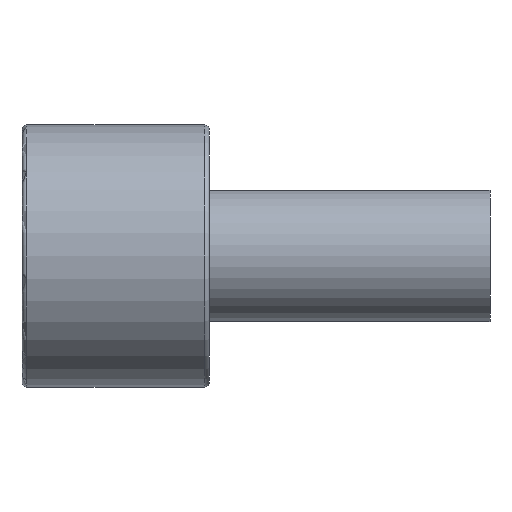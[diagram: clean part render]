
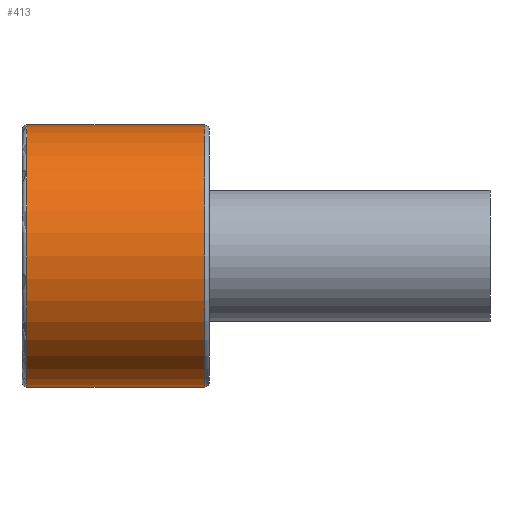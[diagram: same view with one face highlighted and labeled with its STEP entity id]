
A CAD part, front view. The second image highlights one B-rep face of the part: STEP entity #413.
In plain terms, the highlighted cylindrical face has radius 14 mm (diameter 28 mm), a partial arc.
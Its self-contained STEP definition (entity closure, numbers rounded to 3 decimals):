
#225=CARTESIAN_POINT('Vertex',(0.5,0.,14.)) ;
#239=CARTESIAN_POINT('Vertex',(0.5,0.,-14.)) ;
#261=CARTESIAN_POINT('Axis2P3D Location',(0.5,0.,0.)) ;
#265=CARTESIAN_POINT('Vertex',(0.5,-14.,0.)) ;
#268=CARTESIAN_POINT('Axis2P3D Location',(0.5,0.,0.)) ;
#353=CARTESIAN_POINT('Line Origine',(50.,0.,14.)) ;
#357=CARTESIAN_POINT('Vertex',(19.5,0.,14.)) ;
#371=CARTESIAN_POINT('Vertex',(19.5,0.,-14.)) ;
#374=CARTESIAN_POINT('Line Origine',(50.,0.,-14.)) ;
#388=CARTESIAN_POINT('Axis2P3D Location',(50.,0.,0.)) ;
#393=CARTESIAN_POINT('Axis2P3D Location',(19.5,0.,0.)) ;
#397=CARTESIAN_POINT('Vertex',(19.5,-14.,0.)) ;
#400=CARTESIAN_POINT('Axis2P3D Location',(19.5,0.,0.)) ;
#262=DIRECTION('Axis2P3D Direction',(1.,0.,-0.)) ;
#269=DIRECTION('Axis2P3D Direction',(1.,0.,-0.)) ;
#354=DIRECTION('Vector Direction',(-1.,0.,0.)) ;
#375=DIRECTION('Vector Direction',(-1.,0.,0.)) ;
#389=DIRECTION('Axis2P3D Direction',(-1.,-0.,-0.)) ;
#390=DIRECTION('Axis2P3D XDirection',(0.,0.,-1.)) ;
#394=DIRECTION('Axis2P3D Direction',(-1.,-0.,-0.)) ;
#401=DIRECTION('Axis2P3D Direction',(-1.,-0.,-0.)) ;
#263=AXIS2_PLACEMENT_3D('Circle Axis2P3D',#261,#262,$) ;
#270=AXIS2_PLACEMENT_3D('Circle Axis2P3D',#268,#269,$) ;
#391=AXIS2_PLACEMENT_3D('Cylinder Axis2P3D',#388,#389,#390) ;
#395=AXIS2_PLACEMENT_3D('Circle Axis2P3D',#393,#394,$) ;
#402=AXIS2_PLACEMENT_3D('Circle Axis2P3D',#400,#401,$) ;
#406=ORIENTED_EDGE('',*,*,#378,.T.) ;
#407=ORIENTED_EDGE('',*,*,#399,.F.) ;
#408=ORIENTED_EDGE('',*,*,#404,.F.) ;
#409=ORIENTED_EDGE('',*,*,#359,.T.) ;
#410=ORIENTED_EDGE('',*,*,#272,.T.) ;
#411=ORIENTED_EDGE('',*,*,#267,.T.) ;
#355=VECTOR('Line Direction',#354,1.) ;
#376=VECTOR('Line Direction',#375,1.) ;
#413=ADVANCED_FACE('367-14X50',(#412),#392,.T.) ;
#264=CIRCLE('generated circle',#263,14.) ;
#271=CIRCLE('generated circle',#270,14.) ;
#396=CIRCLE('generated circle',#395,14.) ;
#403=CIRCLE('generated circle',#402,14.) ;
#392=CYLINDRICAL_SURFACE('generated cylinder',#391,14.) ;
#267=EDGE_CURVE('',#266,#240,#264,.T.) ;
#272=EDGE_CURVE('',#226,#266,#271,.T.) ;
#359=EDGE_CURVE('',#358,#226,#356,.T.) ;
#378=EDGE_CURVE('',#240,#372,#377,.F.) ;
#399=EDGE_CURVE('',#398,#372,#396,.F.) ;
#404=EDGE_CURVE('',#358,#398,#403,.F.) ;
#405=EDGE_LOOP('',(#406,#407,#408,#409,#410,#411)) ;
#412=FACE_OUTER_BOUND('',#405,.T.) ;
#356=LINE('Line',#353,#355) ;
#377=LINE('Line',#374,#376) ;
#226=VERTEX_POINT('',#225) ;
#240=VERTEX_POINT('',#239) ;
#266=VERTEX_POINT('',#265) ;
#358=VERTEX_POINT('',#357) ;
#372=VERTEX_POINT('',#371) ;
#398=VERTEX_POINT('',#397) ;
